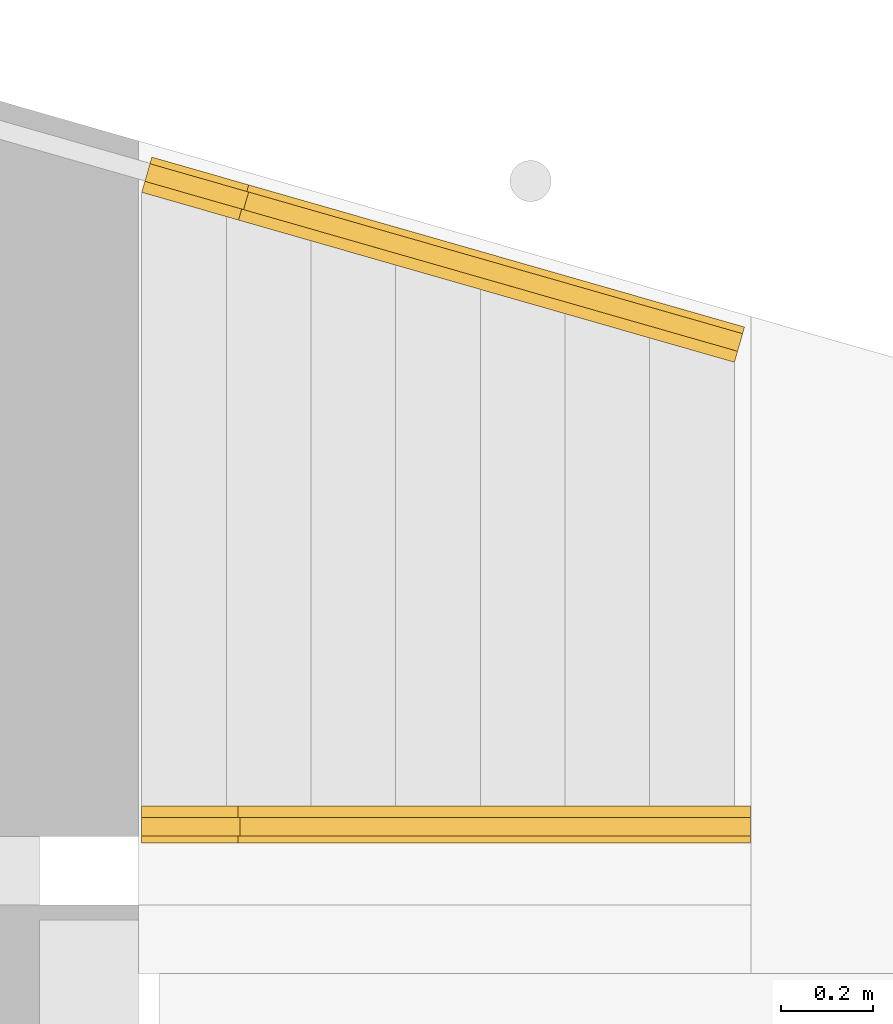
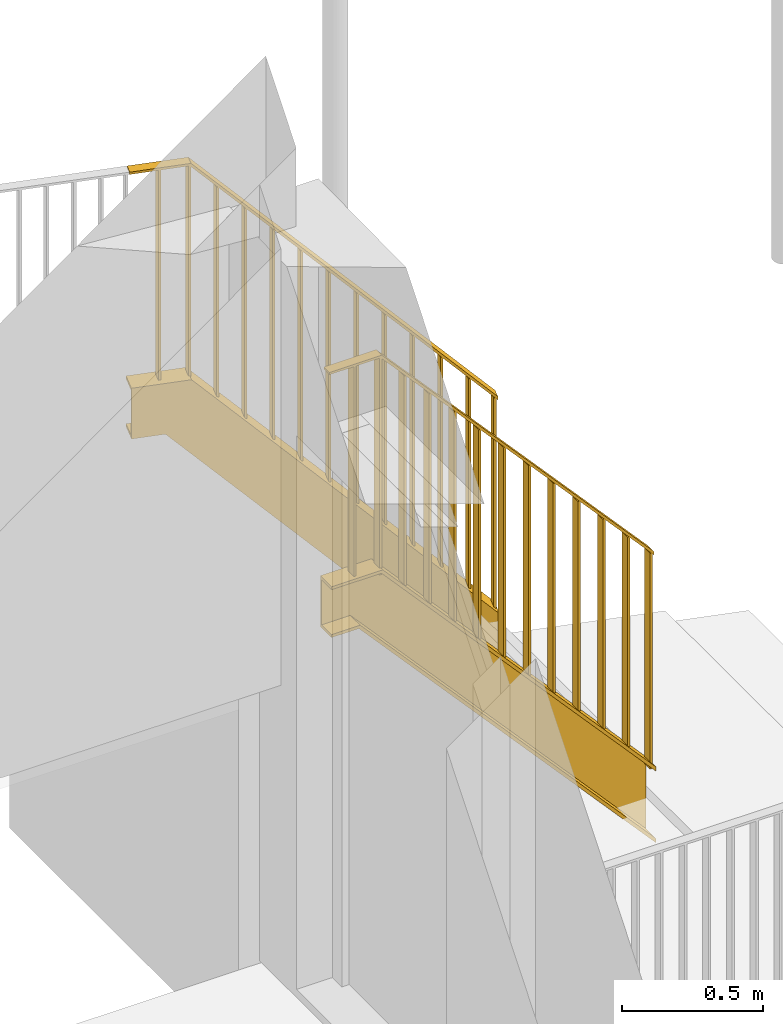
# One storey, part 9 of 10: 2 railings, 1 element without a shape of its own.
"""IFC2X3 building model written with IfcOpenShell, lengths in millimetres."""

from ifc_helpers import new_model, entity, si_unit, converted_unit, derived_unit, direction, frame, origin, place, context, subcontext, project, spatial, faceted_brep, material, material_list, element, aggregate, save


model = new_model("IFC2X3")

# Units and contexts
model_context = context("Model", 3, precision=0.01, world=origin(), true_north=direction((6.12303176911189e-17, 1.0)))
body_context = subcontext(model_context, "Body", "Model", "MODEL_VIEW")
ifc_project = project(units=[si_unit("LENGTHUNIT", "METRE", prefix="MILLI"), si_unit("AREAUNIT", "SQUARE_METRE"), si_unit("VOLUMEUNIT", "CUBIC_METRE"), converted_unit("PLANEANGLEUNIT", "DEGREE", entity("IfcRatioMeasure", 0.0174532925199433), si_unit("PLANEANGLEUNIT", "RADIAN"), dimensions=[0, 0, 0, 0, 0, 0, 0]), si_unit("MASSUNIT", "GRAM", prefix="KILO"), derived_unit("MASSDENSITYUNIT", [(si_unit("MASSUNIT", "GRAM", prefix="KILO"), 1), (si_unit("LENGTHUNIT", "METRE"), -3)]), derived_unit("MOMENTOFINERTIAUNIT", [(si_unit("LENGTHUNIT", "METRE"), 4)]), si_unit("TIMEUNIT", "SECOND"), si_unit("FREQUENCYUNIT", "HERTZ"), si_unit("THERMODYNAMICTEMPERATUREUNIT", "DEGREE_CELSIUS"), derived_unit("THERMALTRANSMITTANCEUNIT", [(si_unit("MASSUNIT", "GRAM", prefix="KILO"), 1), (si_unit("THERMODYNAMICTEMPERATUREUNIT", "KELVIN"), -1), (si_unit("TIMEUNIT", "SECOND"), -3)]), derived_unit("VOLUMETRICFLOWRATEUNIT", [(si_unit("LENGTHUNIT", "METRE"), 3), (si_unit("TIMEUNIT", "SECOND"), -1)]), si_unit("ELECTRICCURRENTUNIT", "AMPERE"), si_unit("ELECTRICVOLTAGEUNIT", "VOLT"), si_unit("POWERUNIT", "WATT"), si_unit("FORCEUNIT", "NEWTON", prefix="KILO"), si_unit("ILLUMINANCEUNIT", "LUX"), si_unit("LUMINOUSFLUXUNIT", "LUMEN"), si_unit("LUMINOUSINTENSITYUNIT", "CANDELA"), derived_unit("USERDEFINED", [(si_unit("MASSUNIT", "GRAM", prefix="KILO"), -1), (si_unit("LENGTHUNIT", "METRE"), -2), (si_unit("TIMEUNIT", "SECOND"), 3), (si_unit("LUMINOUSFLUXUNIT", "LUMEN"), 1)]), derived_unit("LINEARVELOCITYUNIT", [(si_unit("LENGTHUNIT", "METRE"), 1), (si_unit("TIMEUNIT", "SECOND"), -1)]), si_unit("PRESSUREUNIT", "PASCAL"), derived_unit("USERDEFINED", [(si_unit("LENGTHUNIT", "METRE"), -2), (si_unit("MASSUNIT", "GRAM", prefix="KILO"), 1), (si_unit("TIMEUNIT", "SECOND"), -2)]), derived_unit("LINEARFORCEUNIT", [(si_unit("MASSUNIT", "GRAM", prefix="KILO"), 1), (si_unit("LENGTHUNIT", "METRE"), 1), (si_unit("TIMEUNIT", "SECOND"), -2), (si_unit("LENGTHUNIT", "METRE"), -1)]), derived_unit("PLANARFORCEUNIT", [(si_unit("MASSUNIT", "GRAM", prefix="KILO"), 1), (si_unit("LENGTHUNIT", "METRE"), 1), (si_unit("TIMEUNIT", "SECOND"), -2), (si_unit("LENGTHUNIT", "METRE"), -2)])], contexts=[model_context])

# Site, building, storey
site_placement = place(None, origin())
site = spatial("IfcSite", under=ifc_project, at=site_placement, Name="<Kadaster Gemeente>;<Kadaster nummer>;<Kadaster sectie>", CompositionType="ELEMENT")
building_placement = place(site_placement, origin())
building = spatial("IfcBuilding", under=site, at=building_placement, Name="JRCZ Middelburg", CompositionType="ELEMENT")
storey_placement = place(building_placement, frame((0.0, 0.0, 3700.0)))
storey = spatial("IfcBuildingStorey", under=building, at=storey_placement, Name="02 tweede verdieping", CompositionType="ELEMENT", Elevation=3700.0)

# Stair, railings
stair_placement = place(storey_placement, origin())
stair = element("IfcStair", 1, at=stair_placement, inside=storey, Name="Assembled Stair:Stair", ObjectType="Assembled Stair:Vluchttrap staal", ShapeType="STRAIGHT_RUN_STAIR")
ifc_material_1 = material(Name="<Unnamed>")
ifc_material_2 = material(Name="h2_staal_gen")
ifc_material_list_1 = material_list([ifc_material_1, ifc_material_1, ifc_material_1, ifc_material_1, ifc_material_1, ifc_material_1, ifc_material_1, ifc_material_1, ifc_material_1, ifc_material_1, ifc_material_1, ifc_material_1, ifc_material_1, ifc_material_2, ifc_material_1, ifc_material_2, ifc_material_1])
railing_1_placement = place(stair_placement, frame((17423.4210859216, 25585.7383095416, -156.288646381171)))
railing_1 = element("IfcRailing", 2, at=railing_1_placement, material=ifc_material_list_1, Name="Railing:NLRS_90_RA_LB_hekwerk spijlen staal +trapboom", ObjectType="Railing:NLRS_90_RA_LB_hekwerk spijlen staal +trapboom", PredefinedType="NOTDEFINED", context=body_context, shape_type="Brep", body=[
    faceted_brep([(117.041416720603, 363.745262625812, 2437.66279337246), (128.066965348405, 402.195714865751, 2437.66279337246), (118.454352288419, 404.9521020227, 2437.66279337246), (107.428803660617, 366.501649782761, 2437.66279337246), (117.041416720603, 363.745262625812, 1527.66279337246), (107.428803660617, 366.501649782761, 1527.66279337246), (118.454352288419, 404.9521020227, 1527.66279337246), (128.066965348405, 402.195714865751, 1527.66279337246)], [[[0, 1, 2, 3]], [[4, 5, 6, 7]], [[3, 5, 4, 0]], [[2, 6, 5, 3]], [[1, 7, 6, 2]], [[0, 4, 7, 1]]]),
    faceted_brep([(321.282206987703, 305.179845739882, 2328.06817394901), (332.307755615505, 343.630297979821, 2328.06817394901), (322.69514255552, 346.38668513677, 2328.06817394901), (311.669593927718, 307.936232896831, 2328.06817394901), (321.282206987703, 305.179845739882, 1418.06817394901), (311.669593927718, 307.936232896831, 1418.06817394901), (322.69514255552, 346.38668513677, 1418.06817394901), (332.307755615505, 343.630297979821, 1418.06817394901)], [[[0, 1, 2, 3]], [[4, 5, 6, 7]], [[3, 5, 4, 0]], [[2, 6, 5, 3]], [[1, 7, 6, 2]], [[0, 4, 7, 1]]]),
    faceted_brep([(419.784253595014, 276.934687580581, 2218.47355452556), (430.809802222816, 315.38513982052, 2218.47355452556), (421.19718916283, 318.141526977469, 2218.47355452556), (410.171640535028, 279.69107473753, 2218.47355452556), (419.784253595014, 276.934687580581, 1308.47355452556), (410.171640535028, 279.69107473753, 1308.47355452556), (421.19718916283, 318.141526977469, 1308.47355452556), (430.809802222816, 315.38513982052, 1308.47355452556)], [[[0, 1, 2, 3]], [[4, 5, 6, 7]], [[3, 5, 4, 0]], [[2, 6, 5, 3]], [[1, 7, 6, 2]], [[0, 4, 7, 1]]]),
    faceted_brep([(518.286300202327, 248.68952942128, 2108.8789351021), (529.311848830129, 287.139981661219, 2108.8789351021), (519.699235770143, 289.896368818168, 2108.8789351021), (508.673687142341, 251.445916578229, 2108.8789351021), (518.286300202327, 248.68952942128, 1198.8789351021), (508.673687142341, 251.445916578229, 1198.8789351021), (519.699235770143, 289.896368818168, 1198.8789351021), (529.311848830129, 287.139981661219, 1198.8789351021)], [[[0, 1, 2, 3]], [[4, 5, 6, 7]], [[3, 5, 4, 0]], [[2, 6, 5, 3]], [[1, 7, 6, 2]], [[0, 4, 7, 1]]]),
    faceted_brep([(616.788346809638, 220.444371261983, 1999.28431567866), (627.81389543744, 258.894823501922, 1999.28431567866), (618.201282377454, 261.651210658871, 1999.28431567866), (607.175733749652, 223.200758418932, 1999.28431567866), (616.788346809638, 220.444371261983, 1089.28431567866), (607.175733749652, 223.200758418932, 1089.28431567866), (618.201282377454, 261.651210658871, 1089.28431567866), (627.81389543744, 258.894823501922, 1089.28431567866)], [[[0, 1, 2, 3]], [[4, 5, 6, 7]], [[3, 5, 4, 0]], [[2, 6, 5, 3]], [[1, 7, 6, 2]], [[0, 4, 7, 1]]]),
    faceted_brep([(715.290393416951, 192.199213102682, 1889.68969625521), (726.315942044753, 230.64966534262, 1889.68969625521), (716.703328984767, 233.406052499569, 1889.68969625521), (705.677780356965, 194.95560025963, 1889.68969625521), (715.290393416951, 192.199213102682, 979.689696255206), (705.677780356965, 194.95560025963, 979.689696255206), (716.703328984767, 233.406052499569, 979.689696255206), (726.315942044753, 230.64966534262, 979.689696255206)], [[[0, 1, 2, 3]], [[4, 5, 6, 7]], [[3, 5, 4, 0]], [[2, 6, 5, 3]], [[1, 7, 6, 2]], [[0, 4, 7, 1]]]),
    faceted_brep([(813.792440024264, 163.95405494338, 1780.09507683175), (824.817988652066, 202.404507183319, 1780.09507683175), (815.20537559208, 205.160894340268, 1780.09507683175), (804.179826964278, 166.710442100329, 1780.09507683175), (813.792440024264, 163.95405494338, 870.095076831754), (804.179826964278, 166.710442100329, 870.095076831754), (815.20537559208, 205.160894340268, 870.095076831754), (824.817988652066, 202.404507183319, 870.095076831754)], [[[0, 1, 2, 3]], [[4, 5, 6, 7]], [[3, 5, 4, 0]], [[2, 6, 5, 3]], [[1, 7, 6, 2]], [[0, 4, 7, 1]]]),
    faceted_brep([(912.294486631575, 135.708896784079, 1670.50045740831), (923.320035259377, 174.159349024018, 1670.50045740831), (913.707422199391, 176.915736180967, 1670.50045740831), (902.681873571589, 138.465283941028, 1670.50045740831), (912.294486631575, 135.708896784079, 760.500457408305), (902.681873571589, 138.465283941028, 760.500457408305), (913.707422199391, 176.915736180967, 760.500457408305), (923.320035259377, 174.159349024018, 760.500457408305)], [[[0, 1, 2, 3]], [[4, 5, 6, 7]], [[3, 5, 4, 0]], [[2, 6, 5, 3]], [[1, 7, 6, 2]], [[0, 4, 7, 1]]]),
    faceted_brep([(1010.79653323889, 107.463738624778, 1560.90583798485), (1021.82208186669, 145.914190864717, 1560.90583798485), (1012.2094688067, 148.670578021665, 1560.90583798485), (1001.1839201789, 110.220125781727, 1560.90583798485), (1010.79653323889, 107.463738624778, 650.905837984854), (1001.1839201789, 110.220125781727, 650.905837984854), (1012.2094688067, 148.670578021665, 650.905837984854), (1021.82208186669, 145.914190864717, 650.905837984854)], [[[0, 1, 2, 3]], [[4, 5, 6, 7]], [[3, 5, 4, 0]], [[2, 6, 5, 3]], [[1, 7, 6, 2]], [[0, 4, 7, 1]]]),
    faceted_brep([(1109.2985798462, 79.2185804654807, 1451.3112185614), (1120.324128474, 117.66903270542, 1451.3112185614), (1110.71151541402, 120.425419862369, 1451.3112185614), (1099.68596678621, 81.9749676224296, 1451.3112185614), (1109.2985798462, 79.2185804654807, 541.311218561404), (1099.68596678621, 81.9749676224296, 541.311218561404), (1110.71151541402, 120.425419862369, 541.311218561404), (1120.324128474, 117.66903270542, 541.311218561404)], [[[0, 1, 2, 3]], [[4, 5, 6, 7]], [[3, 5, 4, 0]], [[2, 6, 5, 3]], [[1, 7, 6, 2]], [[0, 4, 7, 1]]]),
    faceted_brep([(1207.80062645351, 50.9734223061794, 1341.71659913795), (1218.82617508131, 89.4238745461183, 1341.71659913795), (1209.21356202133, 92.1802617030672, 1341.71659913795), (1198.18801339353, 53.7298094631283, 1341.71659913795), (1207.80062645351, 50.9734223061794, 431.716599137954), (1198.18801339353, 53.7298094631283, 431.716599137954), (1209.21356202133, 92.1802617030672, 431.716599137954), (1218.82617508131, 89.4238745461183, 431.716599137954)], [[[0, 1, 2, 3]], [[4, 5, 6, 7]], [[3, 5, 4, 0]], [[2, 6, 5, 3]], [[1, 7, 6, 2]], [[0, 4, 7, 1]]]),
    faceted_brep([(222.78016038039, 333.425003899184, 2437.66279337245), (233.805709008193, 371.875456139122, 2437.66279337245), (224.193095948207, 374.631843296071, 2437.66279337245), (213.167547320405, 336.181391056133, 2437.66279337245), (222.78016038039, 333.425003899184, 1497.66279337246), (213.167547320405, 336.181391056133, 1497.66279337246), (224.193095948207, 374.631843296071, 1497.66279337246), (233.805709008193, 371.875456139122, 1497.66279337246)], [[[0, 1, 2, 3]], [[4, 5, 6, 7]], [[3, 5, 4, 0]], [[2, 6, 5, 3]], [[1, 7, 6, 2]], [[0, 4, 7, 1]]]),
    faceted_brep([(1296.69006000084, 25.4846513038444, 1242.8170942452), (1307.71560862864, 63.9351035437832, 1242.8170942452), (1298.10299556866, 66.6914907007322, 1242.8170942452), (1287.07744694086, 28.2410384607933, 1242.8170942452), (1296.69006000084, 25.4846513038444, 307.817094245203), (1287.07744694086, 28.2410384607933, 307.817094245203), (1298.10299556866, 66.6914907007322, 307.817094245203), (1307.71560862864, 63.9351035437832, 307.817094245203)], [[[0, 1, 2, 3]], [[4, 5, 6, 7]], [[3, 5, 4, 0]], [[2, 6, 5, 3]], [[1, 7, 6, 2]], [[0, 4, 7, 1]]]),
    faceted_brep([(1301.89096789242, 24.0315326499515, 1232.12197971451), (1312.91651652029, 62.4819848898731, 1232.12197971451), (1312.91651652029, 62.4819848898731, 1246.76388788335), (1301.89096789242, 24.0315326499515, 1246.76388788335), (218.368455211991, 334.728272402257, 2437.66279337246), (222.540534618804, 333.531941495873, 2447.66279337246), (233.566083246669, 371.982393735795, 2447.66279337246), (229.394003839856, 373.178724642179, 2437.66279337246)], [[[0, 1, 2, 3]], [[4, 5, 6, 7]], [[0, 3, 5, 4]], [[3, 2, 6, 5]], [[2, 1, 7, 6]], [[1, 0, 4, 7]]]),
    faceted_brep([(1295.0, 0.0, 0.0), (1317.05109725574, 76.9009044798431, 0.0), (1317.05109725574, 76.9009044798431, 18.3023852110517), (1297.48074844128, 8.65135175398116, 18.3023852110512), (1297.48074844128, 8.65135175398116, 303.81959450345), (1317.05109725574, 76.9009044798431, 303.819594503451), (1317.05109725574, 76.9009044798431, 322.121979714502), (1295.0, 0.0, 322.121979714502), (119.691740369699, 337.016019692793, 1307.66279337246), (211.477487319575, 310.696739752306, 1527.66279337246), (233.528584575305, 387.597644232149, 1527.66279337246), (228.313485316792, 389.093057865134, 1515.16279337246), (208.743136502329, 320.843505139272, 1515.16279337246), (127.387588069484, 344.171957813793, 1320.16279337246), (146.957936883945, 412.421510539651, 1320.16279337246), (141.742837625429, 413.916924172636, 1307.66279337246)], [[[0, 1, 2, 3, 4, 5, 6, 7]], [[8, 9, 10, 11, 12, 13, 14, 15]], [[0, 7, 9, 8]], [[7, 6, 10, 9]], [[6, 5, 11, 10]], [[5, 4, 12, 11]], [[4, 3, 13, 12]], [[3, 2, 14, 13]], [[2, 1, 15, 14]], [[1, 0, 8, 15]]]),
    faceted_brep([(218.368455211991, 334.728272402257, 2437.66279337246), (229.394003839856, 373.178724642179, 2437.66279337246), (233.566083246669, 371.982393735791, 2447.66279337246), (222.540534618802, 333.531941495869, 2447.66279337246), (6.8909678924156, 395.368789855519, 2437.66279337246), (6.8909678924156, 395.368789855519, 2447.66279337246), (17.9165165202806, 433.81924209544, 2447.66279337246), (17.9165165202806, 433.81924209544, 2437.66279337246)], [[[0, 1, 2, 3]], [[4, 5, 6, 7]], [[1, 0, 4, 7]], [[2, 1, 7, 6]], [[3, 2, 6, 5]], [[0, 3, 5, 4]]]),
    faceted_brep([(119.691740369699, 337.016019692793, 1307.66279337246), (141.742837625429, 413.916924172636, 1307.66279337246), (146.957936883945, 412.421510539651, 1320.16279337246), (127.387588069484, 344.171957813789, 1320.16279337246), (208.743136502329, 320.843505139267, 1515.16279337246), (228.31348531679, 389.093057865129, 1515.16279337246), (233.528584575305, 387.597644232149, 1527.66279337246), (211.477487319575, 310.696739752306, 1527.66279337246), (0.0, 371.337257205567, 1307.66279337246), (0.0, 371.337257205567, 1527.66279337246), (22.0510972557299, 448.23816168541, 1527.66279337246), (22.0510972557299, 448.23816168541, 1515.16279337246), (2.48074844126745, 379.988608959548, 1515.16279337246), (2.48074844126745, 379.988608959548, 1320.16279337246), (22.0510972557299, 448.23816168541, 1320.16279337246), (22.0510972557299, 448.23816168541, 1307.66279337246)], [[[0, 1, 2, 3, 4, 5, 6, 7]], [[8, 9, 10, 11, 12, 13, 14, 15]], [[1, 0, 8, 15]], [[2, 1, 15, 14]], [[3, 2, 14, 13]], [[4, 3, 13, 12]], [[5, 4, 12, 11]], [[6, 5, 11, 10]], [[7, 6, 10, 9]], [[0, 7, 9, 8]]]),
])
ifc_material_list_2 = material_list([ifc_material_1, ifc_material_1, ifc_material_1, ifc_material_1, ifc_material_1, ifc_material_1, ifc_material_1, ifc_material_1, ifc_material_1, ifc_material_1, ifc_material_1, ifc_material_1, ifc_material_1, ifc_material_2, ifc_material_1, ifc_material_2, ifc_material_1])
railing_2_placement = place(stair_placement, frame((17423.3108304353, 24535.6, -202.220080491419)))
railing_2 = element("IfcRailing", 3, at=railing_2_placement, material=ifc_material_list_2, Name="Railing:NLRS_90_RA_LB_hekwerk spijlen staal +trapboom", ObjectType="Railing:NLRS_90_RA_LB_hekwerk spijlen staal +trapboom", PredefinedType="NOTDEFINED", context=body_context, shape_type="Brep", body=[
    faceted_brep([(109.60003272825, 55.0367448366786, 2485.23809850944), (99.6000327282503, 55.0367448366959, 2485.23809850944), (99.6000327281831, 15.0367448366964, 2485.23809850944), (109.600032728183, 15.036744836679, 2485.23809850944), (109.60003272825, 55.0367448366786, 1575.23809850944), (109.600032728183, 15.036744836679, 1575.23809850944), (99.6000327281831, 15.0367448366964, 1575.23809850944), (99.6000327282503, 55.0367448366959, 1575.23809850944)], [[[0, 1, 2, 3]], [[4, 5, 6, 7]], [[1, 0, 4, 7]], [[2, 1, 7, 6]], [[3, 2, 6, 5]], [[0, 3, 5, 4]]]),
    faceted_brep([(316.418214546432, 55.0367448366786, 2371.95390522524), (306.418214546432, 55.0367448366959, 2371.95390522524), (306.418214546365, 15.0367448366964, 2371.95390522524), (316.418214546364, 15.036744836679, 2371.95390522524), (316.418214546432, 55.0367448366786, 1461.95390522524), (316.418214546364, 15.036744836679, 1461.95390522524), (306.418214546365, 15.0367448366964, 1461.95390522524), (306.418214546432, 55.0367448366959, 1461.95390522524)], [[[0, 1, 2, 3]], [[4, 5, 6, 7]], [[1, 0, 4, 7]], [[2, 1, 7, 6]], [[3, 2, 6, 5]], [[0, 3, 5, 4]]]),
    faceted_brep([(418.236396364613, 55.0367448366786, 2258.66971194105), (408.236396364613, 55.0367448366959, 2258.66971194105), (408.236396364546, 15.0367448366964, 2258.66971194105), (418.236396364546, 15.036744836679, 2258.66971194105), (418.236396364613, 55.0367448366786, 1348.66971194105), (418.236396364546, 15.036744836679, 1348.66971194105), (408.236396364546, 15.0367448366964, 1348.66971194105), (408.236396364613, 55.0367448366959, 1348.66971194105)], [[[0, 1, 2, 3]], [[4, 5, 6, 7]], [[1, 0, 4, 7]], [[2, 1, 7, 6]], [[3, 2, 6, 5]], [[0, 3, 5, 4]]]),
    faceted_brep([(520.054578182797, 55.0367448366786, 2145.38551865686), (510.054578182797, 55.0367448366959, 2145.38551865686), (510.05457818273, 15.0367448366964, 2145.38551865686), (520.05457818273, 15.036744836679, 2145.38551865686), (520.054578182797, 55.0367448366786, 1235.38551865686), (520.05457818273, 15.036744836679, 1235.38551865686), (510.05457818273, 15.0367448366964, 1235.38551865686), (510.054578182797, 55.0367448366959, 1235.38551865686)], [[[0, 1, 2, 3]], [[4, 5, 6, 7]], [[1, 0, 4, 7]], [[2, 1, 7, 6]], [[3, 2, 6, 5]], [[0, 3, 5, 4]]]),
    faceted_brep([(621.872760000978, 55.0367448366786, 2032.10132537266), (611.872760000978, 55.0367448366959, 2032.10132537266), (611.872760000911, 15.0367448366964, 2032.10132537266), (621.872760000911, 15.036744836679, 2032.10132537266), (621.872760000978, 55.0367448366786, 1122.10132537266), (621.872760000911, 15.036744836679, 1122.10132537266), (611.872760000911, 15.0367448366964, 1122.10132537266), (611.872760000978, 55.0367448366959, 1122.10132537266)], [[[0, 1, 2, 3]], [[4, 5, 6, 7]], [[1, 0, 4, 7]], [[2, 1, 7, 6]], [[3, 2, 6, 5]], [[0, 3, 5, 4]]]),
    faceted_brep([(723.69094181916, 55.0367448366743, 1918.81713208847), (713.69094181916, 55.0367448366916, 1918.81713208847), (713.690941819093, 15.036744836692, 1918.81713208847), (723.690941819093, 15.0367448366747, 1918.81713208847), (723.69094181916, 55.0367448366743, 1008.81713208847), (723.690941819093, 15.0367448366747, 1008.81713208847), (713.690941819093, 15.036744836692, 1008.81713208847), (713.69094181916, 55.0367448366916, 1008.81713208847)], [[[0, 1, 2, 3]], [[4, 5, 6, 7]], [[1, 0, 4, 7]], [[2, 1, 7, 6]], [[3, 2, 6, 5]], [[0, 3, 5, 4]]]),
    faceted_brep([(825.509123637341, 55.0367448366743, 1805.53293880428), (815.509123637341, 55.0367448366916, 1805.53293880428), (815.509123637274, 15.036744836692, 1805.53293880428), (825.509123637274, 15.0367448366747, 1805.53293880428), (825.509123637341, 55.0367448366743, 895.53293880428), (825.509123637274, 15.0367448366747, 895.53293880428), (815.509123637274, 15.036744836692, 895.53293880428), (815.509123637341, 55.0367448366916, 895.53293880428)], [[[0, 1, 2, 3]], [[4, 5, 6, 7]], [[1, 0, 4, 7]], [[2, 1, 7, 6]], [[3, 2, 6, 5]], [[0, 3, 5, 4]]]),
    faceted_brep([(927.327305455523, 55.0367448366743, 1692.24874552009), (917.327305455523, 55.0367448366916, 1692.24874552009), (917.327305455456, 15.036744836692, 1692.24874552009), (927.327305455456, 15.0367448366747, 1692.24874552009), (927.327305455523, 55.0367448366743, 782.248745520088), (927.327305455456, 15.0367448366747, 782.248745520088), (917.327305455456, 15.036744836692, 782.248745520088), (917.327305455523, 55.0367448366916, 782.248745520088)], [[[0, 1, 2, 3]], [[4, 5, 6, 7]], [[1, 0, 4, 7]], [[2, 1, 7, 6]], [[3, 2, 6, 5]], [[0, 3, 5, 4]]]),
    faceted_brep([(1029.1454872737, 55.0367448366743, 1578.9645522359), (1019.1454872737, 55.0367448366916, 1578.9645522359), (1019.14548727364, 15.036744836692, 1578.9645522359), (1029.14548727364, 15.0367448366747, 1578.9645522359), (1029.1454872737, 55.0367448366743, 668.964552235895), (1029.14548727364, 15.0367448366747, 668.964552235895), (1019.14548727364, 15.036744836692, 668.964552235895), (1019.1454872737, 55.0367448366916, 668.964552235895)], [[[0, 1, 2, 3]], [[4, 5, 6, 7]], [[1, 0, 4, 7]], [[2, 1, 7, 6]], [[3, 2, 6, 5]], [[0, 3, 5, 4]]]),
    faceted_brep([(1130.96366909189, 55.0367448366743, 1465.6803589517), (1120.96366909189, 55.0367448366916, 1465.6803589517), (1120.96366909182, 15.036744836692, 1465.6803589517), (1130.96366909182, 15.0367448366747, 1465.6803589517), (1130.96366909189, 55.0367448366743, 555.680358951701), (1130.96366909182, 15.0367448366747, 555.680358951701), (1120.96366909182, 15.036744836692, 555.680358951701), (1120.96366909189, 55.0367448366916, 555.680358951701)], [[[0, 1, 2, 3]], [[4, 5, 6, 7]], [[1, 0, 4, 7]], [[2, 1, 7, 6]], [[3, 2, 6, 5]], [[0, 3, 5, 4]]]),
    faceted_brep([(1232.78185091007, 55.0367448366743, 1352.39616566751), (1222.78185091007, 55.0367448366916, 1352.39616566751), (1222.78185091, 15.036744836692, 1352.39616566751), (1232.78185091, 15.0367448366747, 1352.39616566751), (1232.78185091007, 55.0367448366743, 442.396165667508), (1232.78185091, 15.0367448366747, 442.396165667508), (1222.78185091, 15.036744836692, 442.396165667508), (1222.78185091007, 55.0367448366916, 442.396165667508)], [[[0, 1, 2, 3]], [[4, 5, 6, 7]], [[1, 0, 4, 7]], [[2, 1, 7, 6]], [[3, 2, 6, 5]], [[0, 3, 5, 4]]]),
    faceted_brep([(214.60003272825, 55.0367448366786, 2485.23809850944), (204.60003272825, 55.0367448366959, 2485.23809850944), (204.600032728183, 15.0367448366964, 2485.23809850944), (214.600032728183, 15.036744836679, 2485.23809850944), (214.60003272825, 55.0367448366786, 1545.23809850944), (214.600032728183, 15.036744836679, 1545.23809850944), (204.600032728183, 15.0367448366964, 1545.23809850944), (204.60003272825, 55.0367448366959, 1545.23809850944)], [[[0, 1, 2, 3]], [[4, 5, 6, 7]], [[1, 0, 4, 7]], [[2, 1, 7, 6]], [[3, 2, 6, 5]], [[0, 3, 5, 4]]]),
    faceted_brep([(1324.60003272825, 55.0367448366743, 1250.23809850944), (1314.60003272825, 55.0367448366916, 1250.23809850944), (1314.60003272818, 15.036744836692, 1250.23809850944), (1324.60003272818, 15.0367448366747, 1250.23809850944), (1324.60003272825, 55.0367448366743, 315.238098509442), (1324.60003272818, 15.0367448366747, 315.238098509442), (1314.60003272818, 15.036744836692, 315.238098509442), (1314.60003272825, 55.0367448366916, 315.238098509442)], [[[0, 1, 2, 3]], [[4, 5, 6, 7]], [[1, 0, 4, 7]], [[2, 1, 7, 6]], [[3, 2, 6, 5]], [[0, 3, 5, 4]]]),
    faceted_brep([(1330.0, 55.0, 1239.11197238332), (1330.0, 55.0, 1254.07160749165), (1330.0, 15.0, 1254.07160749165), (1330.0, 15.0, 1239.11197238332), (210.0, 55.0, 2485.23809850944), (210.0, 15.0, 2485.23809850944), (214.457647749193, 15.0, 2495.23809850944), (214.457647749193, 55.0, 2495.23809850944)], [[[0, 1, 2, 3]], [[4, 5, 6, 7]], [[2, 1, 7, 6]], [[1, 0, 4, 7]], [[0, 3, 5, 4]], [[3, 2, 6, 5]]]),
    faceted_brep([(1330.0, 80.0, 0.0), (1330.0, 80.0, 329.111972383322), (1330.0, 0.0, 329.111972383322), (1330.0, 0.0, 310.412428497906), (1330.0, 71.0, 310.412428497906), (1330.0, 71.0, 18.6995438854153), (1330.0, 0.0, 18.6995438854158), (1330.0, 0.0, 0.0), (111.931749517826, 80.0, 1355.23809850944), (111.931749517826, 0.0, 1355.23809850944), (117.503809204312, 0.0, 1367.73809850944), (117.503809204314, 71.0, 1367.73809850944), (204.427940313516, 71.0, 1562.73809850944), (204.427940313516, 0.0, 1562.73809850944), (210.0, 0.0, 1575.23809850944), (210.0, 80.0, 1575.23809850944)], [[[0, 1, 2, 3, 4, 5, 6, 7]], [[8, 9, 10, 11, 12, 13, 14, 15]], [[1, 0, 8, 15]], [[2, 1, 15, 14]], [[3, 2, 14, 13]], [[4, 3, 13, 12]], [[5, 4, 12, 11]], [[6, 5, 11, 10]], [[7, 6, 10, 9]], [[0, 7, 9, 8]]]),
    faceted_brep([(210.0, 55.0, 2485.23809850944), (214.457647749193, 55.0, 2495.23809850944), (214.457647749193, 15.0, 2495.23809850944), (210.0, 15.0, 2485.23809850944), (0.0, 55.0, 2485.23809850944), (0.0, 15.0, 2485.23809850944), (0.0, 15.0, 2495.23809850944), (0.0, 55.0, 2495.23809850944)], [[[0, 1, 2, 3]], [[4, 5, 6, 7]], [[1, 0, 4, 7]], [[2, 1, 7, 6]], [[3, 2, 6, 5]], [[0, 3, 5, 4]]]),
    faceted_brep([(111.931749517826, 80.0, 1355.23809850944), (210.0, 80.0, 1575.23809850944), (210.0, 0.0, 1575.23809850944), (204.427940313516, 0.0, 1562.73809850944), (204.427940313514, 71.0, 1562.73809850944), (117.503809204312, 71.0, 1367.73809850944), (117.503809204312, 0.0, 1367.73809850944), (111.931749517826, 0.0, 1355.23809850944), (0.0, 80.0, 1355.23809850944), (0.0, 0.0, 1355.23809850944), (0.0, 0.0, 1367.73809850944), (0.0, 71.0, 1367.73809850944), (0.0, 71.0, 1562.73809850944), (0.0, 0.0, 1562.73809850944), (0.0, 0.0, 1575.23809850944), (0.0, 80.0, 1575.23809850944)], [[[0, 1, 2, 3, 4, 5, 6, 7]], [[8, 9, 10, 11, 12, 13, 14, 15]], [[1, 0, 8, 15]], [[2, 1, 15, 14]], [[3, 2, 14, 13]], [[4, 3, 13, 12]], [[5, 4, 12, 11]], [[6, 5, 11, 10]], [[7, 6, 10, 9]], [[0, 7, 9, 8]]]),
])
aggregate(stair, [railing_1, railing_2])

save(model, "model.ifc")
